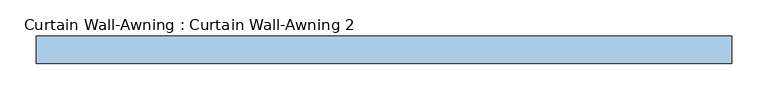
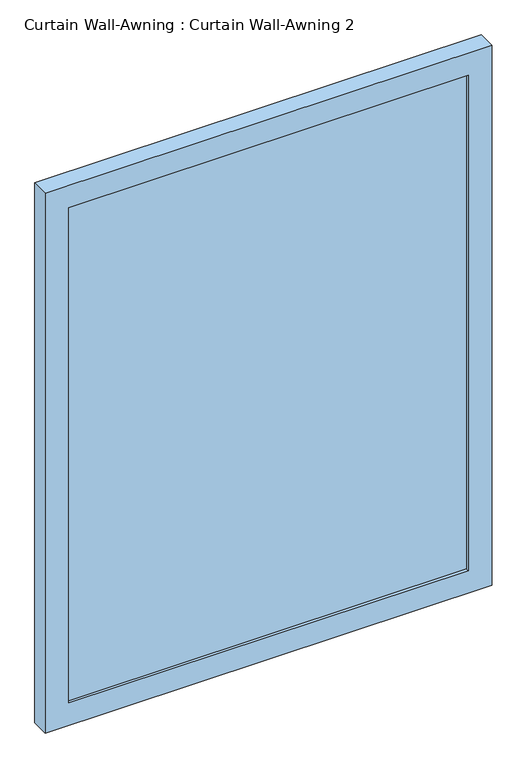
"""IFC4 building model written with IfcOpenShell, lengths in millimetres: window geometry, Curtain Wall-Awning : Curtain Wall-Awning 2."""

from ifc_helpers import new_model, si_unit, frame, origin, place, context, project, spatial, polyline, outline, extrude, source, transform, mapped, element, save


def curtain_wall_awning_curtain_wall_awning_2_1036b38f(model_context):
    return source(origin(), model_context, "Body", "SweptSolid", [
        extrude(outline(polyline([(429.329983, 19.05), (429.329983, 6.35), (-429.329983, 6.35), (-429.329983, 19.05), (429.329983, 19.05)])), frame((0.0, 0.0, 50.8), z_axis=(0.0, 0.0, 1.0), x_axis=(1.0, 0.0, 0.0)), (0.0, 0.0, 1.0), 1124.7800169),
        extrude(outline(polyline([(1226.3800169, -480.129983), (0.0, -480.129983), (0.0, 480.129983), (1226.3800169, 480.129983), (1226.3800169, -480.129983)]), holes=[polyline([(1175.5800169, -429.329983), (1175.5800169, 429.329983), (50.8, 429.329983), (50.8, -429.329983), (1175.5800169, -429.329983)])]), frame((0.0, 0.0, 0.0), z_axis=(0.0, 1.0, 0.0), x_axis=(0.0, 0.0, 1.0)), (0.0, 0.0, 1.0), 38.1),
    ])


if __name__ == "__main__":
    model = new_model("IFC4")
    model_context = context("Model", 3, world=origin())
    ifc_project = project(units=[si_unit("LENGTHUNIT", "METRE", prefix="MILLI")], contexts=[model_context])
    site = spatial("IfcSite", under=ifc_project)
    building = spatial("IfcBuilding", under=site)
    placement = place(None, origin())
    curtain_wall_awning_curtain_wall_awning_2_shape = curtain_wall_awning_curtain_wall_awning_2_1036b38f(model_context)
    element("IfcWindow", 1, ObjectType="Curtain Wall-Awning : Curtain Wall-Awning 2", at=placement, inside=building, context=model_context, shape_type="MappedRepresentation", body=[
        mapped(curtain_wall_awning_curtain_wall_awning_2_shape, transform((0.0, 0.0, 0.0), x_axis=(1.0, 0.0, 0.0), y_axis=(0.0, 1.0, 0.0), z_axis=(0.0, 0.0, 1.0))),
    ])
    save(model, "model.ifc")
